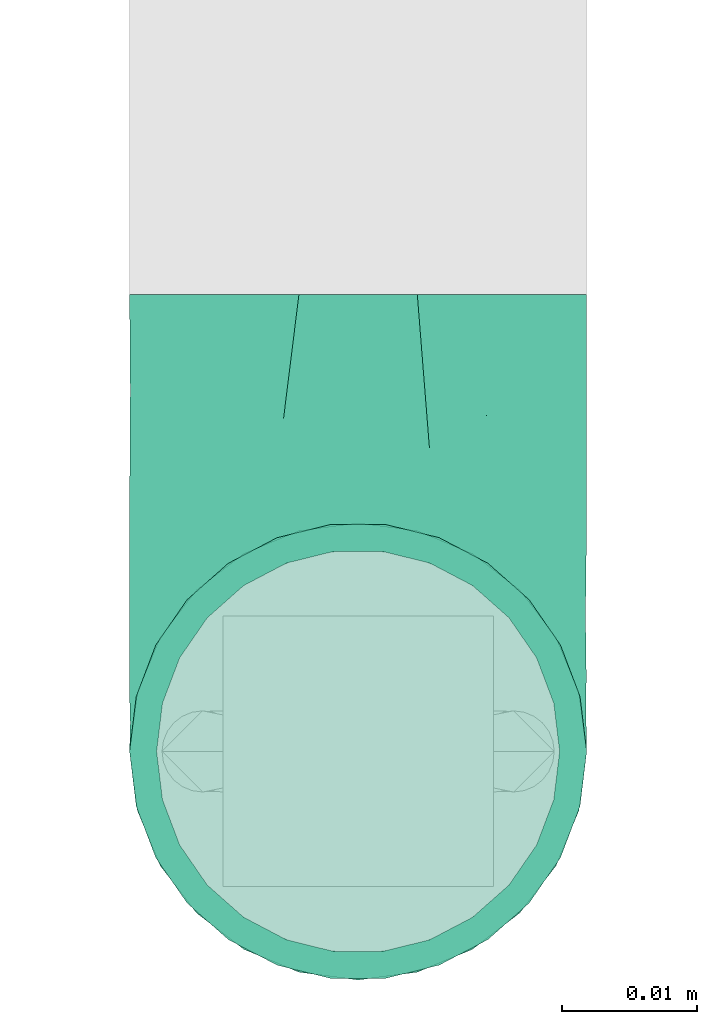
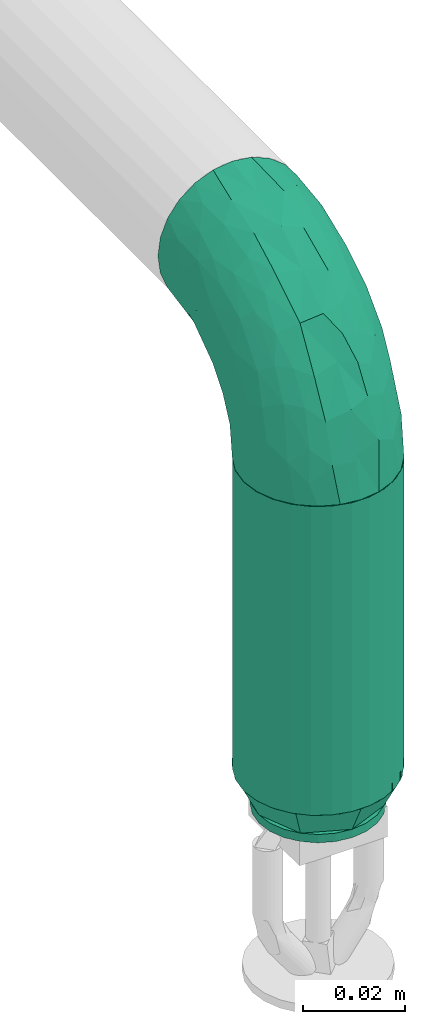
# One storey, part 15 of 43: 2 flow fittings, 1 flow segment.
"""IFC2X3 building model written with IfcOpenShell, lengths in millimetres."""

from ifc_helpers import new_model, entity, si_unit, converted_unit, derived_unit, direction, frame, origin_with_axes, origin_2d_with_axis, place, context, subcontext, project, spatial, hollow_circle, extrude, open_shell, surface_model, source, transform, mapped, type_object, element, save


model = new_model("IFC2X3")

# Units and contexts
model_context = context("Model", 3, precision=0.01, world=frame((0.0, 4.29681676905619e-09, 0.0)), true_north=direction((4.01073788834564e-13, 1.0)))
plan_context = context("Plan", 3, precision=0.01, world=frame((0.0, 4.29681676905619e-09, 0.0)), true_north=direction((4.01073788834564e-13, 1.0)))
body_context = subcontext(model_context, "Body", "Model", "MODEL_VIEW")
ifc_project = project(units=[converted_unit("PLANEANGLEUNIT", "DEGREE", entity("IfcPositiveLengthMeasure", 0.0174532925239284), si_unit("PLANEANGLEUNIT", "RADIAN"), dimensions=[0, 0, 0, 0, 0, 0, 0]), si_unit("AREAUNIT", "SQUARE_METRE"), si_unit("LENGTHUNIT", "METRE", prefix="MILLI"), si_unit("MASSUNIT", "GRAM", prefix="KILO"), si_unit("POWERUNIT", "WATT"), si_unit("PRESSUREUNIT", "PASCAL"), si_unit("FORCEUNIT", "NEWTON", prefix="KILO"), si_unit("ELECTRICVOLTAGEUNIT", "VOLT"), si_unit("ELECTRICCURRENTUNIT", "AMPERE"), si_unit("THERMODYNAMICTEMPERATUREUNIT", "DEGREE_CELSIUS"), si_unit("TIMEUNIT", "SECOND"), si_unit("VOLUMEUNIT", "CUBIC_METRE"), derived_unit("LINEARVELOCITYUNIT", [(si_unit("LENGTHUNIT", "METRE"), 1), (si_unit("TIMEUNIT", "SECOND"), -1)]), derived_unit("VOLUMETRICFLOWRATEUNIT", [(si_unit("VOLUMEUNIT", "CUBIC_METRE"), 1), (si_unit("TIMEUNIT", "SECOND"), -1)]), derived_unit("THERMALTRANSMITTANCEUNIT", [(si_unit("POWERUNIT", "WATT"), 1), (si_unit("THERMODYNAMICTEMPERATUREUNIT", "KELVIN"), -1), (si_unit("AREAUNIT", "SQUARE_METRE"), -1)]), derived_unit("SOUNDPRESSUREUNIT", [(si_unit("PRESSUREUNIT", "PASCAL"), 1)])], contexts=[model_context, plan_context])

# Site, building, storey
site_placement = place(None, frame((0.0, -4.29681676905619e-09, 0.0), z_axis=(0.0, 0.0, 1.0), x_axis=(1.0, 0.0, 0.0)))
site = spatial("IfcSite", under=ifc_project, at=site_placement, CompositionType="ELEMENT")
building_placement = place(site_placement, frame((0.0, 4.29681676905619e-09, 0.0), z_axis=(0.0, 0.0, 1.0), x_axis=(1.0, 0.0, 0.0)))
building = spatial("IfcBuilding", under=site, at=building_placement, Name="mc-building", CompositionType="ELEMENT")
storey_placement = place(building_placement, frame((0.0, 0.0, 210900.0), z_axis=(0.0, 0.0, 1.0), x_axis=(1.0, 0.0, 0.0)))
storey = spatial("IfcBuildingStorey", under=building, at=storey_placement, Name="Nivå F", CompositionType="ELEMENT", Elevation=210900.0)

# Flow fittings
pipe_fitting_type_1 = type_object("IfcPipeFittingType", Name="magi_pipe_fe_elbow_short_001", PredefinedType="BEND")
shared_shape_1 = source(origin_with_axes(), body_context, "Body", "SurfaceModel", [
    surface_model("IfcShellBasedSurfaceModel", [(-33.8, 4.37404, -16.32415), (-33.8, 0.0, -16.9), (-33.8, 11.9501, -11.9501), (-33.8, 8.45, -14.63583), (-33.8, 16.32415, -4.37404), (-33.8, 14.63583, -8.45), (-33.8, -14.63583, -8.45), (-33.8, -16.32415, -4.37404), (-33.8, -8.45, 14.63583), (-33.8, -11.9501, -11.9501), (-33.8, -8.45, -14.63583), (-33.8, -4.37404, -16.32415), (-33.8, -16.9, 0.0), (-33.8, -16.32415, 4.37404), (-33.8, 11.9501, 11.9501), (-33.8, 14.63583, 8.45), (-33.8, 16.32415, 4.37404), (-33.8, 4.37404, 16.32415), (-33.8, 8.45, 14.63583), (-33.8, -14.63583, 8.45), (-33.8, -11.9501, 11.9501), (-33.8, -4.37404, 16.32415), (-33.8, 0.0, 16.9), (-33.8, 16.9, 0.0), (-11.9501, 33.8, -11.9501), (0.0, 33.8, -16.9), (-4.37404, 33.8, -16.32415), (-8.45, 33.8, -14.63583), (-14.63583, 33.8, -8.45), (-16.32415, 33.8, -4.37404), (14.63583, 33.8, -8.45), (8.45, 33.8, 14.63583), (16.32415, 33.8, -4.37404), (8.45, 33.8, -14.63583), (11.9501, 33.8, -11.9501), (4.37404, 33.8, -16.32415), (16.32415, 33.8, 4.37404), (16.9, 33.8, 0.0), (-11.9501, 33.8, 11.9501), (-16.32415, 33.8, 4.37404), (-14.63583, 33.8, 8.45), (-8.45, 33.8, 14.63583), (-4.37404, 33.8, 16.32415), (11.9501, 33.8, 11.9501), (14.63583, 33.8, 8.45), (0.0, 33.8, 16.9), (4.37404, 33.8, 16.32415), (-16.9, 33.8, 0.0), (-24.79389, -13.12945, 9.48721), (-22.19287, -9.75018, 12.59315), (-24.09897, -14.97035, 0.0), (-14.93934, -10.76256, 8.5297), (-22.46095, -14.75051, 5.27077), (14.75051, 22.46094, 5.27077), (11.9251, 13.23888, 4.33236), (13.04069, 14.39795, 0.0), (7.71387, 13.68847, 11.55891), (9.75018, 22.19287, 12.59315), (4.10169, 13.0571, 14.04018), (-24.84007, -6.39063, 15.2048), (-25.81779, -2.23879, 16.61097), (-23.66549, 2.59054, 16.87119), (-26.50418, 14.06512, 11.08152), (-24.21253, 17.66365, 7.72657), (-29.58514, 15.86957, 7.00283), (-6.17382, -7.5455, 0.0), (-13.23888, -11.9251, 4.33236), (-14.39795, -13.04069, 0.0), (-17.81434, 18.87373, 11.97104), (-6.30846, 29.15138, 15.82987), (-2.31622, 25.28002, 16.85849), (-29.23923, 10.23435, 13.77053), (-1.45439, -2.85688, 7.61475), (-0.28326, 0.34872, 10.09509), (-5.74484, -4.04709, 10.4122), (-4.41137, 11.31918, 16.59407), (-8.39727, 3.10034, 15.7812), (-1.72649, 9.1306, 15.53089), (-17.39909, 24.75344, 7.64977), (-26.19233, 20.0512, 0.0), (-28.14518, 17.29657, 4.25857), (-26.05147, 6.6281, 15.96447), (-5.87354, 16.61944, 16.86968), (-12.51807, 12.51807, 16.48937), (-10.06312, 7.38516, 16.81295), (-3.01882, 3.01882, 13.81718), (-13.0571, -4.10169, 14.04018), (-16.82553, -0.15166, 16.38038), (10.76256, 14.93934, 8.5297), (13.12945, 24.79389, 9.48721), (6.39063, 24.84007, 15.2048), (2.23879, 25.81779, 16.61097), (-13.68847, -7.71387, 11.55891), (14.97035, 24.09897, 0.0), (-7.30894, 22.89991, 16.09489), (-10.67958, 26.17414, 14.008), (-12.78295, 18.26924, 15.06066), (-13.88562, 22.45231, 12.93244), (-18.04944, 15.16501, 14.04434), (-23.11658, 20.08178, 4.02986), (-21.84989, 21.84989, 0.0), (-18.55817, 25.48277, 3.93065), (-13.95142, 26.94732, 11.03289), (-18.57098, 7.23906, 16.59756), (-16.58335, 4.14122, 16.89279), (-17.96666, 11.46709, 15.63151), (-9.84453, 17.54304, 16.18938), (0.15166, 16.82553, 16.38038), (-23.27207, 11.47201, 14.23154), (3.84842, 5.86994, 10.70473), (-8.0212, -7.54413, 7.93275), (1.00345, -2.19508, 4.57414), (5.13203, 3.01004, 5.90201), (5.24161, 1.7543, 2.53265), (8.70457, 7.04947, 3.99182), (-20.0512, 26.19233, 0.0), (8.4852, 8.76699, 7.09296), (-4.55488, -6.72064, 4.90681), (2.05031, -2.05031, 0.0), (7.5455, 6.17382, 0.0), (-26.75399, 2.1369, -16.845), (-14.61995, 24.73803, -11.27736), (-28.45274, -13.45335, -9.81895), (-26.00469, 6.63555, -15.96645), (-23.06726, 20.04573, -4.26202), (-13.80647, -4.26506, -14.17873), (-14.67501, -0.21081, -16.07388), (-6.7902, -0.2828, -13.8478), (-24.53586, 11.08096, -14.13417), (-26.72048, 14.00837, -11.05776), (10.0967, 24.44989, -12.75976), (5.83237, 21.40218, -15.03047), (6.66249, 28.54238, -15.38093), (-20.38182, 15.48705, -12.74596), (-15.65186, 19.64213, -13.01327), (-12.03528, 20.66498, -14.67665), (-15.61907, 15.61906, -14.83879), (-25.56551, -15.26206, 0.0), (-24.65452, -15.12934, -5.50955), (12.53268, 21.23441, -9.15363), (13.45335, 28.45274, -9.81895), (15.12934, 24.65452, -5.50955), (-7.35442, -8.31014, -5.65563), (-15.67504, -12.54494, -5.54878), (-24.44989, -10.0967, -12.75976), (0.16522, 0.41303, -9.71728), (-5.70658, -5.33066, -8.89288), (-5.13869, -2.37198, -11.53565), (-21.23441, -12.53268, -9.15363), (0.71146, 7.93863, -14.09382), (0.21081, 14.67501, -16.07388), (3.49291, 14.42772, -14.76381), (-24.89911, -2.13088, -16.591), (-28.54238, -6.66249, -15.38093), (-18.44386, -7.71663, -13.26957), (2.13088, 24.89911, -16.591), (-28.64342, 17.44413, -2.89318), (1.70017, -1.28722, -5.09504), (-16.57067, 26.81947, -7.36596), (-17.69055, 27.4263, -3.76405), (-12.89279, -9.7522, -8.66343), (-5.96611, 5.96611, -15.95814), (-20.53709, 20.09345, -8.28985), (-2.1369, 26.75399, -16.845), (-6.89872, 24.58781, -16.02578), (-10.60739, 26.53157, -13.98044), (-21.40218, -5.83237, -15.03047), (2.93192, 5.89627, -11.55917), (6.89393, 12.61842, -11.82233), (5.58056, 5.95325, -8.79455), (-3.99512, 18.61798, -16.89635), (-9.1383, 9.86148, -16.89041), (-9.99983, 16.02119, -16.39699), (-16.68576, 9.78031, -16.34199), (-27.01915, 16.61158, -7.12979), (15.26206, 25.56551, 0.0), (-18.61798, 3.99512, -16.89635), (-19.37495, 27.82495, 0.0), (9.7522, 12.89279, -8.66343), (-12.61842, -6.89393, -11.82233), (8.31014, 7.35442, -5.65563), (-18.84705, 19.14018, -10.96545), (12.54494, 15.67504, -5.54878)], [open_shell([[[0, 1, 2]], [[3, 0, 2]], [[4, 5, 2]], [[6, 2, 1]], [[2, 7, 8]], [[9, 6, 10]], [[1, 11, 10]], [[10, 6, 1]], [[2, 6, 7]], [[12, 13, 7]], [[4, 2, 14]], [[4, 15, 16]], [[4, 14, 15]], [[17, 18, 14]], [[14, 2, 8]], [[17, 14, 8]], [[19, 20, 13]], [[20, 7, 13]], [[21, 22, 8]], [[20, 8, 7]], [[8, 22, 17]], [[4, 16, 23]], [[24, 25, 26]], [[24, 26, 27]], [[24, 28, 29]], [[25, 24, 30]], [[31, 32, 24]], [[33, 30, 34]], [[33, 35, 25]], [[25, 30, 33]], [[32, 30, 24]], [[32, 36, 37]], [[38, 24, 29]], [[39, 40, 29]], [[40, 38, 29]], [[38, 41, 42]], [[38, 31, 24]], [[31, 38, 42]], [[36, 43, 44]], [[36, 32, 43]], [[31, 45, 46]], [[32, 31, 43]], [[42, 45, 31]], [[39, 29, 47]], [[20, 48, 49]], [[13, 12, 50]], [[51, 48, 52]], [[53, 54, 55]], [[48, 20, 19]], [[13, 52, 19]], [[56, 57, 58]], [[49, 8, 20]], [[49, 59, 8]], [[22, 60, 61]], [[62, 63, 64]], [[65, 66, 67]], [[57, 43, 31]], [[62, 68, 63]], [[42, 69, 70]], [[18, 71, 14]], [[21, 60, 22]], [[72, 73, 74]], [[75, 76, 77]], [[14, 62, 15]], [[40, 39, 78]], [[79, 23, 80]], [[64, 16, 15]], [[22, 61, 17]], [[17, 81, 18]], [[82, 83, 84]], [[74, 85, 86]], [[59, 86, 87]], [[88, 89, 57]], [[90, 31, 46]], [[44, 53, 36]], [[46, 45, 91]], [[54, 53, 88]], [[44, 89, 53]], [[92, 86, 49]], [[89, 44, 43]], [[8, 59, 21]], [[53, 55, 93]], [[93, 36, 53]], [[66, 52, 67]], [[94, 82, 70]], [[95, 96, 94]], [[97, 98, 96]], [[79, 99, 100]], [[41, 38, 95]], [[101, 100, 99]], [[68, 78, 63]], [[42, 41, 69]], [[23, 16, 80]], [[95, 94, 69]], [[78, 101, 99]], [[38, 102, 95]], [[70, 45, 42]], [[97, 95, 102]], [[13, 50, 52]], [[90, 57, 31]], [[57, 90, 58]], [[81, 17, 61]], [[103, 104, 84]], [[105, 81, 103]], [[38, 40, 102]], [[106, 96, 83]], [[94, 106, 82]], [[91, 70, 107]], [[71, 62, 14]], [[62, 108, 98]], [[86, 59, 49]], [[67, 52, 50]], [[60, 59, 87]], [[92, 49, 51]], [[86, 85, 76]], [[91, 90, 46]], [[37, 36, 93]], [[107, 77, 58]], [[107, 58, 90]], [[58, 85, 109]], [[110, 74, 92]], [[72, 74, 110]], [[66, 51, 52]], [[72, 111, 112]], [[113, 114, 112]], [[56, 88, 57]], [[52, 48, 19]], [[49, 48, 51]], [[57, 89, 43]], [[53, 89, 88]], [[103, 81, 61]], [[71, 81, 108]], [[16, 64, 80]], [[63, 78, 99]], [[47, 115, 101]], [[101, 115, 100]], [[40, 78, 102]], [[68, 102, 78]], [[97, 96, 95]], [[105, 98, 108]], [[103, 84, 83]], [[107, 70, 82]], [[76, 84, 87]], [[82, 84, 75]], [[70, 91, 45]], [[90, 91, 107]], [[59, 60, 21]], [[61, 60, 87]], [[73, 85, 74]], [[109, 112, 116]], [[103, 61, 104]], [[105, 103, 83]], [[96, 105, 83]], [[81, 105, 108]], [[96, 98, 105]], [[62, 98, 68]], [[61, 87, 104]], [[87, 84, 104]], [[86, 76, 87]], [[77, 76, 85]], [[58, 77, 85]], [[75, 77, 107]], [[82, 75, 107]], [[76, 75, 84]], [[81, 71, 18]], [[62, 71, 108]], [[95, 69, 41]], [[70, 69, 94]], [[62, 64, 15]], [[80, 63, 99]], [[63, 80, 64]], [[80, 99, 79]], [[66, 65, 117]], [[110, 66, 117]], [[112, 114, 116]], [[118, 117, 65]], [[110, 92, 51]], [[112, 111, 113]], [[119, 55, 54]], [[74, 86, 92]], [[58, 109, 56]], [[116, 56, 109]], [[66, 110, 51]], [[72, 110, 117]], [[111, 72, 117]], [[73, 112, 109]], [[117, 118, 111]], [[113, 111, 118]], [[118, 119, 113]], [[114, 119, 54]], [[119, 114, 113]], [[116, 54, 88]], [[54, 116, 114]], [[116, 88, 56]], [[112, 73, 72]], [[85, 73, 109]], [[78, 39, 101]], [[47, 101, 39]], [[102, 68, 97]], [[97, 68, 98]], [[82, 106, 83]], [[94, 96, 106]], [[0, 120, 1]], [[28, 24, 121]], [[9, 122, 6]], [[3, 123, 0]], [[100, 124, 79]], [[125, 126, 127]], [[128, 2, 129]], [[130, 131, 132]], [[128, 129, 133]], [[134, 135, 136]], [[128, 3, 2]], [[67, 137, 138]], [[139, 140, 141]], [[138, 7, 6]], [[142, 65, 143]], [[144, 9, 10]], [[145, 146, 147]], [[143, 138, 148]], [[149, 150, 151]], [[152, 11, 1]], [[10, 153, 144]], [[148, 144, 154]], [[153, 10, 11]], [[35, 155, 25]], [[23, 79, 156]], [[146, 157, 142]], [[158, 159, 29]], [[143, 160, 142]], [[161, 150, 149]], [[29, 28, 158]], [[121, 162, 158]], [[33, 34, 130]], [[25, 163, 26]], [[26, 163, 164]], [[140, 34, 30]], [[24, 27, 165]], [[124, 159, 162]], [[155, 35, 132]], [[153, 152, 166]], [[123, 3, 128]], [[167, 168, 169]], [[170, 155, 150]], [[26, 164, 27]], [[132, 35, 33]], [[140, 130, 34]], [[166, 152, 126]], [[133, 134, 136]], [[2, 5, 129]], [[168, 131, 130]], [[30, 32, 141]], [[170, 171, 172]], [[173, 123, 128]], [[156, 174, 4]], [[165, 27, 164]], [[172, 164, 170]], [[134, 165, 135]], [[122, 138, 6]], [[137, 12, 7]], [[32, 37, 175]], [[168, 130, 139]], [[150, 155, 131]], [[163, 155, 170]], [[151, 168, 149]], [[150, 161, 171]], [[166, 125, 154]], [[122, 144, 148]], [[120, 152, 1]], [[176, 171, 126]], [[176, 126, 152]], [[126, 161, 127]], [[160, 143, 148]], [[137, 7, 138]], [[32, 175, 141]], [[55, 141, 175]], [[174, 129, 5]], [[128, 133, 136]], [[173, 128, 136]], [[120, 123, 176]], [[121, 158, 28]], [[159, 100, 177]], [[164, 172, 135]], [[121, 24, 165]], [[159, 47, 29]], [[79, 124, 156]], [[124, 162, 174]], [[159, 124, 100]], [[178, 169, 168]], [[127, 161, 149]], [[145, 169, 157]], [[146, 142, 160]], [[127, 149, 167]], [[127, 179, 125]], [[129, 174, 162]], [[5, 4, 174]], [[157, 65, 142]], [[67, 138, 143]], [[123, 120, 0]], [[152, 120, 176]], [[155, 163, 25]], [[164, 163, 170]], [[170, 150, 171]], [[173, 136, 172]], [[126, 171, 161]], [[173, 171, 176]], [[171, 173, 172]], [[123, 173, 176]], [[148, 179, 160]], [[127, 147, 179]], [[179, 146, 160]], [[157, 146, 145]], [[169, 178, 180]], [[168, 139, 178]], [[157, 169, 180]], [[169, 145, 167]], [[167, 145, 147]], [[149, 168, 167]], [[162, 181, 129]], [[181, 121, 134]], [[179, 147, 146]], [[167, 147, 127]], [[181, 134, 133]], [[165, 134, 121]], [[164, 135, 165]], [[172, 136, 135]], [[129, 181, 133]], [[121, 181, 162]], [[159, 158, 162]], [[47, 159, 177]], [[174, 156, 124]], [[23, 156, 4]], [[130, 132, 33]], [[155, 132, 131]], [[141, 140, 30]], [[130, 140, 139]], [[152, 153, 11]], [[144, 153, 166]], [[144, 122, 9]], [[138, 122, 148]], [[150, 131, 151]], [[157, 119, 118]], [[67, 143, 65]], [[168, 151, 131]], [[119, 157, 180]], [[157, 118, 65]], [[154, 125, 179]], [[126, 125, 166]], [[148, 154, 179]], [[166, 154, 144]], [[139, 182, 178]], [[141, 182, 139]], [[178, 182, 180]], [[182, 55, 119]], [[141, 55, 182]], [[182, 119, 180]]])]),
])
flow_fitting_1_placement = place(storey_placement, frame((610366.6122, 689615.20027, 2415.0), z_axis=(1.0, 0.0, 0.0), x_axis=(0.0, -1.0, 0.0)))
element("IfcFlowFitting", 1, at=flow_fitting_1_placement, inside=storey, type_object=pipe_fitting_type_1, Name="magi_pipe_fe_elbow_short_001", context=body_context, shape_type="MappedRepresentation", body=[
    mapped(shared_shape_1, transform((0.0, 0.0, 0.0), scale=1.0)),
])
pipe_fitting_type_2 = type_object("IfcPipeFittingType", Name="magi_pipe_fe_reducer_centric_short_NOR", PredefinedType="TRANSITION")
shared_shape_2 = source(origin_with_axes(), body_context, "Body", "SurfaceModel", [
    surface_model("IfcShellBasedSurfaceModel", [(9.0, 4.37404, -16.32415), (9.0, 8.45, -14.63583), (9.0, 11.9501, -11.9501), (9.0, 0.0, -16.9), (9.0, 16.32415, -4.37404), (9.0, 16.32415, 4.37404), (9.0, 14.63583, -8.45), (9.0, -8.45, -14.63583), (9.0, -4.37404, -16.32415), (9.0, -11.9501, -11.9501), (9.0, -16.32415, -4.37404), (9.0, -14.63583, -8.45), (9.0, -16.32415, 4.37404), (9.0, 16.9, 0.0), (9.0, 14.63583, 8.45), (9.0, 11.9501, 11.9501), (9.0, 4.37404, 16.32415), (9.0, 0.0, 16.9), (9.0, 8.45, 14.63583), (9.0, -14.63583, 8.45), (9.0, -16.9, 0.0), (9.0, -8.45, 14.63583), (9.0, -11.9501, 11.9501), (9.0, -4.37404, 16.32415), (7.0, 4.37404, 16.32415), (7.0, -14.63583, 8.45), (7.0, 0.0, 16.9), (7.0, 16.32415, 4.37404), (7.0, 8.45, 14.63583), (7.0, 11.9501, 11.9501), (7.0, 14.63583, 8.45), (7.0, -8.45, 14.63583), (7.0, -11.9501, 11.9501), (7.0, -4.37404, 16.32415), (7.0, -16.32415, 4.37404), (7.0, -16.32415, -4.37404), (7.0, -16.9, 0.0), (7.0, -8.45, -14.63583), (7.0, 16.32415, -4.37404), (7.0, 11.9501, -11.9501), (7.0, 14.63583, -8.45), (7.0, 8.45, -14.63583), (7.0, 4.37404, -16.32415), (7.0, 0.0, -16.9), (7.0, -11.9501, -11.9501), (7.0, -14.63583, -8.45), (7.0, -4.37404, -16.32415), (7.0, 16.9, 0.0), (-2.0, -9.47523, 9.47523), (-2.0, 0.0, 13.4), (-2.0, 3.46818, 12.94341), (-2.0, 6.7, 11.60474), (-2.0, 9.47523, 9.47523), (-2.0, 11.60474, 6.7), (-2.0, 12.94341, 3.46818), (-2.0, -3.46818, 12.94341), (-2.0, -6.7, 11.60474), (-2.0, -12.94341, 3.46818), (-2.0, -11.60474, 6.7), (-2.0, -6.7, -11.60474), (-2.0, -12.94341, -3.46818), (-2.0, -13.4, 0.0), (-2.0, 12.94341, -3.46818), (-2.0, 6.7, -11.60474), (-2.0, 9.47523, -9.47523), (-2.0, 11.60474, -6.7), (-2.0, 3.46818, -12.94341), (-2.0, 0.0, -13.4), (-2.0, -9.47523, -9.47523), (-2.0, -11.60474, -6.7), (-2.0, -3.46818, -12.94341), (-2.0, 13.4, 0.0), (0.0, 12.94341, -3.46818), (0.0, 3.46818, -12.94341), (0.0, 6.7, -11.60474), (0.0, 11.60474, -6.7), (0.0, 9.47523, -9.47523), (0.0, -6.7, -11.60474), (0.0, -12.94341, 3.46818), (0.0, -3.46818, -12.94341), (0.0, 0.0, -13.4), (0.0, -9.47523, -9.47523), (0.0, -12.94341, -3.46818), (0.0, -11.60474, -6.7), (0.0, 13.4, 0.0), (0.0, 12.94341, 3.46818), (0.0, 11.60474, 6.7), (0.0, 9.47523, 9.47523), (0.0, 0.0, 13.4), (0.0, 6.7, 11.60474), (0.0, 3.46818, 12.94341), (0.0, -9.47523, 9.47523), (0.0, -11.60474, 6.7), (0.0, -13.4, 0.0), (0.0, -3.46818, 12.94341), (0.0, -6.7, 11.60474), (7.0, -14.51228, -5.76448), (0.0, -11.43761, -4.73762), (7.0, -13.23119, -8.85729), (0.0, -10.45642, -7.10642), (0.0, -12.41881, -2.36881), (7.0, -15.70614, -2.88224), (0.0, -2.36881, -12.41881), (7.0, -5.97505, -14.42505), (0.0, -7.10642, -10.45642), (0.0, -4.73762, -11.43761), (7.0, -2.98753, -15.66253), (7.0, -8.96258, -13.18758), (7.0, 2.98753, -15.66253), (0.0, 2.36881, -12.41881), (0.0, 12.45339, -2.28533), (7.0, 13.18758, -8.96258), (0.0, 10.45642, -7.10642), (7.0, 14.42505, -5.97505), (0.0, 11.43761, -4.73762), (0.0, 7.10642, -10.45642), (7.0, 8.96258, -13.18758), (7.0, 15.66253, -2.98753), (0.0, 4.73762, -11.43761), (7.0, 5.97505, -14.42505), (7.0, 14.51228, 5.76448), (0.0, 11.43761, 4.73762), (7.0, 13.23119, 8.85729), (0.0, 10.45642, 7.10642), (0.0, 12.41881, 2.36881), (7.0, 15.70614, 2.88224), (0.0, 2.36881, 12.41881), (7.0, 5.97505, 14.42505), (0.0, 7.10642, 10.45642), (0.0, 4.73762, 11.43761), (7.0, 2.98753, 15.66253), (7.0, 8.96258, 13.18758), (7.0, -2.98753, 15.66253), (0.0, -2.36881, 12.41881), (0.0, -12.45339, 2.28533), (7.0, -13.18758, 8.96258), (0.0, -10.45642, 7.10642), (7.0, -14.42505, 5.97505), (0.0, -11.43761, 4.73762), (0.0, -7.10642, 10.45642), (7.0, -8.96258, 13.18758), (7.0, -15.66253, 2.98753), (0.0, -4.73762, 11.43761), (7.0, -5.97505, 14.42505)], [open_shell([[[0, 1, 2]], [[3, 0, 2]], [[2, 4, 5]], [[4, 2, 6]], [[2, 5, 7]], [[3, 7, 8]], [[3, 2, 7]], [[9, 10, 11]], [[10, 9, 7]], [[7, 12, 10]], [[5, 4, 13]], [[5, 14, 15]], [[5, 15, 16]], [[16, 17, 5]], [[16, 15, 18]], [[5, 17, 19]], [[5, 19, 12]], [[20, 10, 12]], [[19, 21, 22]], [[19, 17, 21]], [[21, 17, 23]], [[12, 7, 5]], [[24, 25, 26]], [[27, 24, 28]], [[29, 30, 27]], [[29, 27, 28]], [[25, 24, 27]], [[31, 25, 32]], [[25, 31, 33]], [[26, 25, 33]], [[27, 34, 25]], [[34, 35, 36]], [[34, 27, 37]], [[27, 38, 39]], [[39, 38, 40]], [[39, 41, 42]], [[37, 27, 39]], [[42, 43, 39]], [[35, 44, 45]], [[44, 35, 37]], [[37, 43, 46]], [[35, 34, 37]], [[39, 43, 37]], [[38, 27, 47]], [[35, 10, 36]], [[45, 11, 35]], [[7, 44, 37]], [[45, 44, 9]], [[8, 37, 46]], [[35, 11, 10]], [[10, 20, 36]], [[8, 7, 37]], [[9, 44, 7]], [[9, 11, 45]], [[3, 8, 46]], [[46, 43, 3]], [[42, 0, 43]], [[41, 1, 42]], [[6, 39, 40]], [[41, 39, 2]], [[4, 40, 38]], [[41, 2, 1]], [[1, 0, 42]], [[13, 4, 38]], [[6, 40, 4]], [[6, 2, 39]], [[47, 13, 38]], [[43, 0, 3]], [[27, 5, 47]], [[30, 14, 27]], [[18, 29, 28]], [[30, 29, 15]], [[16, 28, 24]], [[27, 14, 5]], [[5, 13, 47]], [[16, 18, 28]], [[15, 29, 18]], [[15, 14, 30]], [[17, 16, 24]], [[24, 26, 17]], [[33, 23, 26]], [[31, 21, 33]], [[19, 32, 25]], [[31, 32, 22]], [[12, 25, 34]], [[31, 22, 21]], [[21, 23, 33]], [[20, 12, 34]], [[19, 25, 12]], [[19, 22, 32]], [[36, 20, 34]], [[26, 23, 17]], [[48, 49, 50]], [[51, 48, 50]], [[52, 53, 54]], [[52, 54, 51]], [[48, 51, 54]], [[55, 48, 56]], [[55, 49, 48]], [[48, 57, 58]], [[48, 59, 57]], [[57, 60, 61]], [[62, 48, 54]], [[48, 62, 63]], [[64, 62, 65]], [[66, 48, 63]], [[63, 62, 64]], [[66, 67, 48]], [[60, 68, 69]], [[60, 57, 68]], [[70, 59, 48]], [[57, 59, 68]], [[70, 48, 67]], [[71, 62, 54]], [[72, 73, 74]], [[75, 74, 76]], [[77, 73, 78]], [[72, 74, 75]], [[73, 72, 78]], [[73, 79, 80]], [[73, 77, 79]], [[81, 82, 83]], [[78, 82, 81]], [[81, 77, 78]], [[72, 84, 78]], [[85, 86, 87]], [[85, 87, 88]], [[89, 90, 88]], [[89, 88, 87]], [[85, 88, 91]], [[78, 91, 92]], [[93, 82, 78]], [[91, 94, 95]], [[91, 78, 85]], [[94, 91, 88]], [[78, 84, 85]], [[60, 82, 61]], [[69, 83, 60]], [[77, 68, 59]], [[69, 68, 81]], [[79, 59, 70]], [[60, 83, 82]], [[82, 93, 61]], [[79, 77, 59]], [[81, 68, 77]], [[81, 83, 69]], [[80, 79, 70]], [[70, 67, 80]], [[66, 73, 67]], [[63, 74, 66]], [[75, 64, 65]], [[63, 64, 76]], [[72, 65, 62]], [[63, 76, 74]], [[74, 73, 66]], [[84, 72, 62]], [[75, 65, 72]], [[75, 76, 64]], [[71, 84, 62]], [[67, 73, 80]], [[54, 85, 71]], [[53, 86, 54]], [[89, 52, 51]], [[53, 52, 87]], [[90, 51, 50]], [[54, 86, 85]], [[85, 84, 71]], [[90, 89, 51]], [[87, 52, 89]], [[87, 86, 53]], [[88, 90, 50]], [[50, 49, 88]], [[55, 94, 49]], [[56, 95, 55]], [[92, 48, 58]], [[56, 48, 91]], [[78, 58, 57]], [[56, 91, 95]], [[95, 94, 55]], [[93, 78, 57]], [[92, 58, 78]], [[92, 91, 48]], [[61, 93, 57]], [[49, 94, 88]], [[36, 29, 26]], [[39, 47, 29]], [[26, 32, 36]], [[36, 44, 43]], [[43, 39, 36]], [[36, 39, 29]], [[81, 91, 88]], [[81, 93, 91]], [[88, 87, 84]], [[84, 76, 81]], [[80, 81, 76]], [[84, 81, 88]], [[96, 97, 98]], [[81, 44, 99]], [[100, 96, 101]], [[102, 80, 43]], [[103, 104, 105]], [[102, 43, 106]], [[107, 81, 104]], [[108, 80, 109]], [[110, 84, 47]], [[93, 101, 36]], [[108, 43, 80]], [[111, 76, 112]], [[113, 112, 114]], [[115, 39, 116]], [[110, 47, 117]], [[99, 98, 97]], [[117, 113, 114]], [[106, 103, 105]], [[118, 116, 119]], [[109, 118, 119]], [[96, 100, 97]], [[93, 100, 101]], [[99, 44, 98]], [[104, 103, 107]], [[107, 44, 81]], [[106, 105, 102]], [[112, 113, 111]], [[111, 39, 76]], [[117, 114, 110]], [[116, 118, 115]], [[115, 76, 39]], [[109, 119, 108]], [[120, 121, 122]], [[87, 29, 123]], [[124, 120, 125]], [[126, 88, 26]], [[127, 128, 129]], [[126, 26, 130]], [[131, 87, 128]], [[132, 88, 133]], [[134, 93, 36]], [[84, 125, 47]], [[132, 26, 88]], [[135, 91, 136]], [[137, 136, 138]], [[139, 32, 140]], [[134, 36, 141]], [[123, 122, 121]], [[141, 137, 138]], [[130, 127, 129]], [[142, 140, 143]], [[133, 142, 143]], [[120, 124, 121]], [[84, 124, 125]], [[123, 29, 122]], [[128, 127, 131]], [[131, 29, 87]], [[130, 129, 126]], [[136, 137, 135]], [[135, 32, 91]], [[141, 138, 134]], [[140, 142, 139]], [[139, 91, 32]], [[133, 143, 132]]])]),
])
flow_fitting_2_placement = place(storey_placement, frame((610366.6122, 689615.20027, 2300.0), z_axis=(0.0, -1.0, 0.0), x_axis=(0.0, 0.0, 1.0)))
element("IfcFlowFitting", 2, at=flow_fitting_2_placement, inside=storey, type_object=pipe_fitting_type_2, Name="magi_pipe_fe_reducer_centric_short_NOR", context=body_context, shape_type="MappedRepresentation", body=[
    mapped(shared_shape_2, transform((0.0, 0.0, 0.0), scale=1.0)),
])

# Flow segment
pipe_segment_type = type_object("IfcPipeSegmentType", Name="Stålrør normaltykke", PredefinedType="RIGIDSEGMENT")
shared_shape_3 = source(origin_with_axes(), body_context, "Body", "SweptSolid", [
    extrude(hollow_circle(Radius=16.9, WallThickness=2.0, at=origin_2d_with_axis()), frame((0.0, 0.0, 0.0), z_axis=(1.0, 0.0, 0.0), x_axis=(0.0, 1.0, 0.0)), (0.0, 0.0, 1.0), 74.2),
])
flow_segment_placement = place(storey_placement, frame((610366.6122, 689615.20027, 2307.0), z_axis=(0.0, -1.0, 0.0), x_axis=(0.0, 0.0, 1.0)))
element("IfcFlowSegment", 3, at=flow_segment_placement, inside=storey, type_object=pipe_segment_type, Name="Stålrør normaltykke", context=body_context, shape_type="MappedRepresentation", body=[
    mapped(shared_shape_3, transform((0.0, 0.0, 0.0), scale=1.0)),
])

save(model, "model.ifc")
